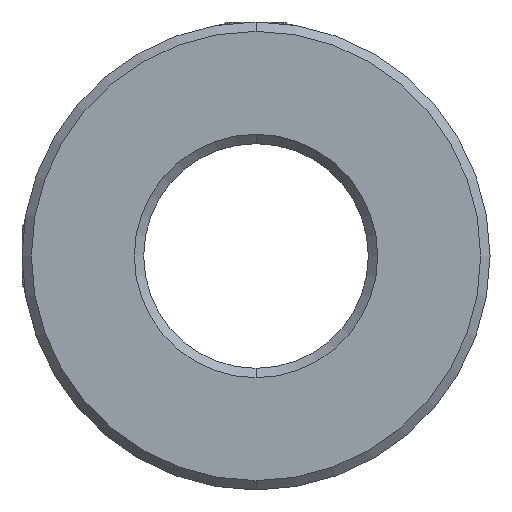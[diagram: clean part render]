
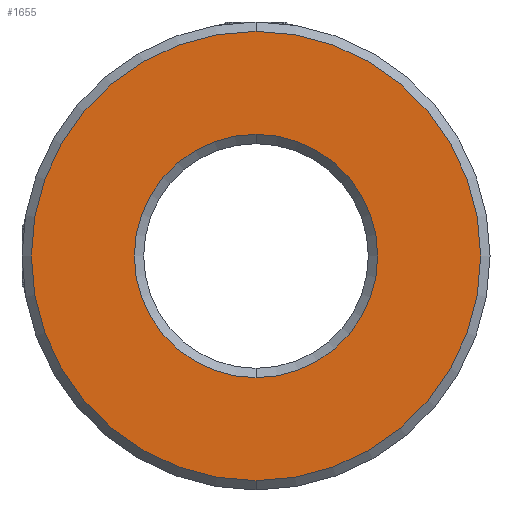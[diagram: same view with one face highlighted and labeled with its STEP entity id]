
A CAD part, front view. The second image highlights one B-rep face of the part: STEP entity #1655.
In plain terms, the highlighted planar face has unit normal (0, -1, 0).
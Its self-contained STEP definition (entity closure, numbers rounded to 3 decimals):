
#166 = CIRCLE ( 'NONE', #2943, 6.5 ) ;
#169 = AXIS2_PLACEMENT_3D ( 'NONE', #323, #845, #1467 ) ;
#317 = FACE_OUTER_BOUND ( 'NONE', #2302, .T. ) ;
#323 = CARTESIAN_POINT ( 'NONE',  ( -10.188, -0.277, 0.046 ) ) ;
#389 = ORIENTED_EDGE ( 'NONE', *, *, #2924, .T. ) ;
#642 = CARTESIAN_POINT ( 'NONE',  ( -10.188, -0.277, -6.454 ) ) ;
#681 = CARTESIAN_POINT ( 'NONE',  ( -10.188, -0.277, 12.046 ) ) ;
#845 = DIRECTION ( 'NONE',  ( 0., 1., 0. ) ) ;
#955 = DIRECTION ( 'NONE',  ( 0., 0., 1. ) ) ;
#983 = AXIS2_PLACEMENT_3D ( 'NONE', #2645, #1801, #955 ) ;
#1008 = VERTEX_POINT ( 'NONE', #1241 ) ;
#1046 = CARTESIAN_POINT ( 'NONE',  ( -10.188, -0.277, 0.046 ) ) ;
#1148 = CIRCLE ( 'NONE', #3233, 12. ) ;
#1151 = CARTESIAN_POINT ( 'NONE',  ( -10.188, -0.277, -11.954 ) ) ;
#1241 = CARTESIAN_POINT ( 'NONE',  ( -10.188, -0.277, 6.546 ) ) ;
#1351 = VERTEX_POINT ( 'NONE', #681 ) ;
#1358 = DIRECTION ( 'NONE',  ( 0., 0., 1. ) ) ;
#1375 = ORIENTED_EDGE ( 'NONE', *, *, #2308, .T. ) ;
#1467 = DIRECTION ( 'NONE',  ( 0., 0., 1. ) ) ;
#1595 = ORIENTED_EDGE ( 'NONE', *, *, #3331, .T. ) ;
#1655 = ADVANCED_FACE ( 'NONE', ( #317, #2939 ), #3442, .F. ) ;
#1737 = EDGE_CURVE ( 'NONE', #1351, #3168, #1148, .T. ) ;
#1801 = DIRECTION ( 'NONE',  ( 0., 1., 0. ) ) ;
#1883 = DIRECTION ( 'NONE',  ( 0., 0., 1. ) ) ;
#1908 = AXIS2_PLACEMENT_3D ( 'NONE', #3100, #2809, #2827 ) ;
#1968 = CARTESIAN_POINT ( 'NONE',  ( -10.188, -0.277, 0.046 ) ) ;
#2302 = EDGE_LOOP ( 'NONE', ( #2912, #389 ) ) ;
#2308 = EDGE_CURVE ( 'NONE', #1008, #2747, #3244, .T. ) ;
#2355 = EDGE_LOOP ( 'NONE', ( #1595, #1375 ) ) ;
#2440 = DIRECTION ( 'NONE',  ( 0., -1., 0. ) ) ;
#2549 = CIRCLE ( 'NONE', #1908, 12. ) ;
#2645 = CARTESIAN_POINT ( 'NONE',  ( -10.188, -0.277, 0.046 ) ) ;
#2747 = VERTEX_POINT ( 'NONE', #642 ) ;
#2809 = DIRECTION ( 'NONE',  ( 0., -1., 0. ) ) ;
#2827 = DIRECTION ( 'NONE',  ( 0., 0., 1. ) ) ;
#2912 = ORIENTED_EDGE ( 'NONE', *, *, #1737, .T. ) ;
#2924 = EDGE_CURVE ( 'NONE', #3168, #1351, #2549, .T. ) ;
#2939 = FACE_BOUND ( 'NONE', #2355, .T. ) ;
#2943 = AXIS2_PLACEMENT_3D ( 'NONE', #1968, #3591, #1358 ) ;
#3100 = CARTESIAN_POINT ( 'NONE',  ( -10.188, -0.277, 0.046 ) ) ;
#3168 = VERTEX_POINT ( 'NONE', #1151 ) ;
#3233 = AXIS2_PLACEMENT_3D ( 'NONE', #1046, #2440, #1883 ) ;
#3244 = CIRCLE ( 'NONE', #169, 6.5 ) ;
#3331 = EDGE_CURVE ( 'NONE', #2747, #1008, #166, .T. ) ;
#3442 = PLANE ( 'NONE',  #983 ) ;
#3591 = DIRECTION ( 'NONE',  ( 0., 1., 0. ) ) ;
